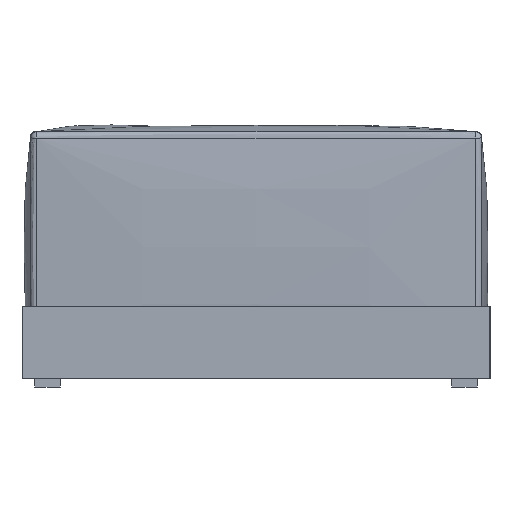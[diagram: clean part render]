
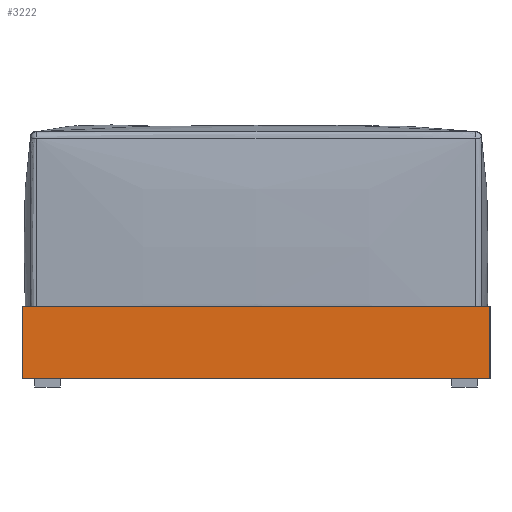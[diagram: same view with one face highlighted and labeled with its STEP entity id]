
A CAD part, left-side view. The second image highlights one B-rep face of the part: STEP entity #3222.
In plain terms, the highlighted planar face has unit normal (-1, 0, 0).
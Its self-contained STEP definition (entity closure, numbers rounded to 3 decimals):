
#496=FACE_OUTER_BOUND('',#748,.T.);
#748=EDGE_LOOP('',(#2190,#2191,#2192,#2193));
#1012=LINE('',#4664,#1212);
#1013=LINE('',#4666,#1213);
#1014=LINE('',#4668,#1214);
#1015=LINE('',#4669,#1215);
#1212=VECTOR('',#3852,10.);
#1213=VECTOR('',#3853,10.);
#1214=VECTOR('',#3854,10.);
#1215=VECTOR('',#3855,10.);
#1404=VERTEX_POINT('',#4662);
#1405=VERTEX_POINT('',#4663);
#1406=VERTEX_POINT('',#4665);
#1407=VERTEX_POINT('',#4667);
#1685=EDGE_CURVE('',#1404,#1405,#1012,.T.);
#1686=EDGE_CURVE('',#1404,#1406,#1013,.T.);
#1687=EDGE_CURVE('',#1407,#1406,#1014,.T.);
#1688=EDGE_CURVE('',#1405,#1407,#1015,.T.);
#2190=ORIENTED_EDGE('',*,*,#1685,.F.);
#2191=ORIENTED_EDGE('',*,*,#1686,.T.);
#2192=ORIENTED_EDGE('',*,*,#1687,.F.);
#2193=ORIENTED_EDGE('',*,*,#1688,.F.);
#3116=PLANE('',#3509);
#3222=ADVANCED_FACE('',(#496),#3116,.T.);
#3509=AXIS2_PLACEMENT_3D('',#4661,#3850,#3851);
#3850=DIRECTION('center_axis',(-1.,0.,0.));
#3851=DIRECTION('ref_axis',(0.,-1.,0.));
#3852=DIRECTION('',(0.,1.,0.));
#3853=DIRECTION('',(0.,0.,1.));
#3854=DIRECTION('',(0.,-1.,0.));
#3855=DIRECTION('',(0.,0.,1.));
#4661=CARTESIAN_POINT('Origin',(-1100.,550.,0.));
#4662=CARTESIAN_POINT('',(-1100.,-550.,0.));
#4663=CARTESIAN_POINT('',(-1100.,550.,0.));
#4664=CARTESIAN_POINT('',(-1100.,-550.,0.));
#4665=CARTESIAN_POINT('',(-1100.,-550.,170.));
#4666=CARTESIAN_POINT('',(-1100.,-550.,0.));
#4667=CARTESIAN_POINT('',(-1100.,550.,170.));
#4668=CARTESIAN_POINT('',(-1100.,-550.,170.));
#4669=CARTESIAN_POINT('',(-1100.,550.,0.));
